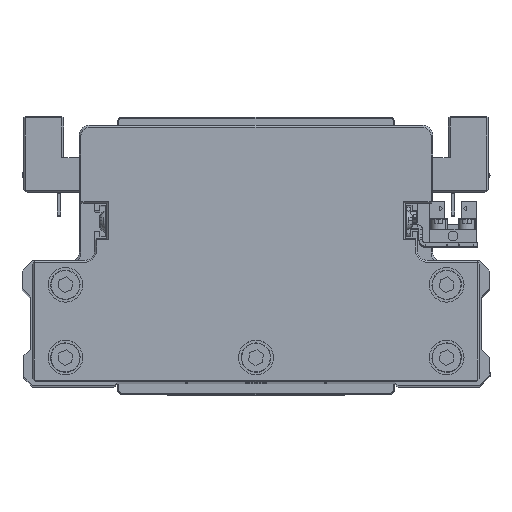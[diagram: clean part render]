
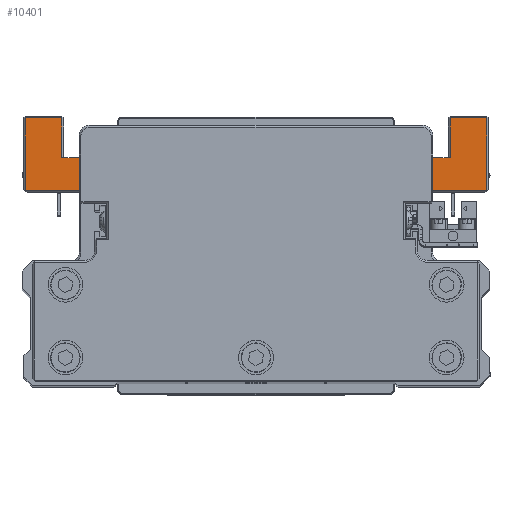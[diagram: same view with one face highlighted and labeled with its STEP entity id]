
A CAD part, top view. The second image highlights one B-rep face of the part: STEP entity #10401.
In plain terms, the highlighted planar face has unit normal (0, 0, 1) as drawn and (0, -1, 0) by its records, which use the part's own axes.
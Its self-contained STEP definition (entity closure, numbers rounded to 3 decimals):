
#39 = CARTESIAN_POINT ( 'NONE',  ( 56., -45., -64. ) ) ;
#177 = CARTESIAN_POINT ( 'NONE',  ( 66.5, -45., -43.5 ) ) ;
#202 = CARTESIAN_POINT ( 'NONE',  ( -40.066, -45., -41.5 ) ) ;
#226 = CARTESIAN_POINT ( 'NONE',  ( 40.066, -45., -43. ) ) ;
#677 = DIRECTION ( 'NONE',  ( 0., 0., -1. ) ) ;
#908 = CARTESIAN_POINT ( 'NONE',  ( 25.802, -45., -41.111 ) ) ;
#1013 = EDGE_CURVE ( 'NONE', #15047, #36386, #16642, .T. ) ;
#1159 = ORIENTED_EDGE ( 'NONE', *, *, #14329, .F. ) ;
#1524 = DIRECTION ( 'NONE',  ( 0., 0., 1. ) ) ;
#1626 = CARTESIAN_POINT ( 'NONE',  ( 0., -45., 0. ) ) ;
#1845 = CARTESIAN_POINT ( 'NONE',  ( -77.786, -45., -42.5 ) ) ;
#2041 = VECTOR ( 'NONE', #15292, 1000. ) ;
#2042 = ORIENTED_EDGE ( 'NONE', *, *, #13509, .T. ) ;
#2109 = CARTESIAN_POINT ( 'NONE',  ( -46., -45., -54. ) ) ;
#2216 = CARTESIAN_POINT ( 'NONE',  ( -36.217, -45., -42.5 ) ) ;
#2457 = VERTEX_POINT ( 'NONE', #20424 ) ;
#2799 = EDGE_CURVE ( 'NONE', #34958, #5583, #16710, .T. ) ;
#2863 = ORIENTED_EDGE ( 'NONE', *, *, #26743, .T. ) ;
#3143 = CARTESIAN_POINT ( 'NONE',  ( -46., -45., -52.5 ) ) ;
#3965 = DIRECTION ( 'NONE',  ( -0.991, 0., -0.132 ) ) ;
#4578 = VERTEX_POINT ( 'NONE', #17146 ) ;
#4615 = DIRECTION ( 'NONE',  ( -1., 0., 0. ) ) ;
#5162 = LINE ( 'NONE', #17308, #12828 ) ;
#5583 = VERTEX_POINT ( 'NONE', #33480 ) ;
#6014 = ORIENTED_EDGE ( 'NONE', *, *, #13732, .T. ) ;
#6238 = VECTOR ( 'NONE', #677, 1000. ) ;
#6447 = CIRCLE ( 'NONE', #28697, 1.5 ) ;
#6507 = VECTOR ( 'NONE', #11816, 1000. ) ;
#6611 = CARTESIAN_POINT ( 'NONE',  ( -40.066, -45., -43. ) ) ;
#6737 = DIRECTION ( 'NONE',  ( 0., 0., -1. ) ) ;
#7732 = CARTESIAN_POINT ( 'NONE',  ( -55.5, -45., -64. ) ) ;
#7935 = CARTESIAN_POINT ( 'NONE',  ( -46., -45., -52.5 ) ) ;
#8308 = VECTOR ( 'NONE', #4615, 1000. ) ;
#8925 = EDGE_CURVE ( 'NONE', #2457, #34137, #21883, .T. ) ;
#9001 = VECTOR ( 'NONE', #19871, 1000. ) ;
#9259 = CARTESIAN_POINT ( 'NONE',  ( 67., -45., -64. ) ) ;
#9535 = CARTESIAN_POINT ( 'NONE',  ( 56., -45., -64.5 ) ) ;
#9732 = ORIENTED_EDGE ( 'NONE', *, *, #18114, .T. ) ;
#9824 = CARTESIAN_POINT ( 'NONE',  ( -66.5, -45., -64. ) ) ;
#9933 = CARTESIAN_POINT ( 'NONE',  ( -56., -45., -52.5 ) ) ;
#10178 = ORIENTED_EDGE ( 'NONE', *, *, #2799, .T. ) ;
#10398 = EDGE_CURVE ( 'NONE', #21854, #34958, #19738, .T. ) ;
#10401 = ADVANCED_FACE ( 'NONE', ( #16754 ), #28870, .T. ) ;
#10611 = DIRECTION ( 'NONE',  ( 0., 0., -1. ) ) ;
#10645 = VECTOR ( 'NONE', #3965, 1000. ) ;
#10723 = DIRECTION ( 'NONE',  ( -1., 0., 0. ) ) ;
#10836 = ORIENTED_EDGE ( 'NONE', *, *, #37379, .T. ) ;
#11625 = ORIENTED_EDGE ( 'NONE', *, *, #13972, .T. ) ;
#11816 = DIRECTION ( 'NONE',  ( -1., 0., 0. ) ) ;
#12143 = EDGE_CURVE ( 'NONE', #16899, #36386, #5162, .T. ) ;
#12295 = DIRECTION ( 'NONE',  ( 0., 0., 1. ) ) ;
#12318 = DIRECTION ( 'NONE',  ( 0., 1., 0. ) ) ;
#12321 = EDGE_CURVE ( 'NONE', #12941, #16899, #30392, .T. ) ;
#12345 = ORIENTED_EDGE ( 'NONE', *, *, #1013, .T. ) ;
#12828 = VECTOR ( 'NONE', #29433, 1000. ) ;
#12941 = VERTEX_POINT ( 'NONE', #2109 ) ;
#13035 = DIRECTION ( 'NONE',  ( -0.991, 0., 0.132 ) ) ;
#13164 = CARTESIAN_POINT ( 'NONE',  ( 66.5, -45., -43. ) ) ;
#13509 = EDGE_CURVE ( 'NONE', #36671, #35873, #6447, .T. ) ;
#13562 = CARTESIAN_POINT ( 'NONE',  ( -56., -45., -64. ) ) ;
#13732 = EDGE_CURVE ( 'NONE', #34137, #15047, #34984, .T. ) ;
#13755 = DIRECTION ( 'NONE',  ( 0., -1., 0. ) ) ;
#13911 = VECTOR ( 'NONE', #12295, 1000. ) ;
#13972 = EDGE_CURVE ( 'NONE', #37595, #29409, #36514, .T. ) ;
#13979 = DIRECTION ( 'NONE',  ( -1., 0., 0. ) ) ;
#14162 = LINE ( 'NONE', #26281, #21626 ) ;
#14329 = EDGE_CURVE ( 'NONE', #25753, #4578, #26938, .T. ) ;
#15047 = VERTEX_POINT ( 'NONE', #13562 ) ;
#15292 = DIRECTION ( 'NONE',  ( 0., 0., 1. ) ) ;
#15460 = ORIENTED_EDGE ( 'NONE', *, *, #12321, .F. ) ;
#15561 = ORIENTED_EDGE ( 'NONE', *, *, #22440, .T. ) ;
#15693 = VECTOR ( 'NONE', #21694, 1000. ) ;
#15786 = LINE ( 'NONE', #27912, #6238 ) ;
#16642 = LINE ( 'NONE', #28768, #34363 ) ;
#16710 = CIRCLE ( 'NONE', #38932, 1.5 ) ;
#16754 = FACE_OUTER_BOUND ( 'NONE', #17398, .T. ) ;
#16899 = VERTEX_POINT ( 'NONE', #7935 ) ;
#17146 = CARTESIAN_POINT ( 'NONE',  ( 46., -45., -52.5 ) ) ;
#17308 = CARTESIAN_POINT ( 'NONE',  ( -55.5, -45., -52.5 ) ) ;
#17398 = EDGE_LOOP ( 'NONE', ( #10836, #9732, #2042, #15561, #35501, #6014, #12345, #33329, #15460, #28098, #25525, #1159, #25532, #11625, #19467, #33052, #10178, #2863 ) ) ;
#18114 = EDGE_CURVE ( 'NONE', #31403, #36671, #19077, .T. ) ;
#19077 = LINE ( 'NONE', #31216, #10645 ) ;
#19467 = ORIENTED_EDGE ( 'NONE', *, *, #32049, .T. ) ;
#19738 = LINE ( 'NONE', #31873, #8308 ) ;
#19871 = DIRECTION ( 'NONE',  ( 1., 0., 0. ) ) ;
#20424 = CARTESIAN_POINT ( 'NONE',  ( -66.5, -45., -43. ) ) ;
#20876 = VERTEX_POINT ( 'NONE', #30003 ) ;
#21081 = CARTESIAN_POINT ( 'NONE',  ( -39.868, -45., -42.987 ) ) ;
#21422 = DIRECTION ( 'NONE',  ( 1., 0., 0. ) ) ;
#21626 = VECTOR ( 'NONE', #38411, 1000. ) ;
#21694 = DIRECTION ( 'NONE',  ( 0., 0., -1. ) ) ;
#21744 = VECTOR ( 'NONE', #21422, 1000. ) ;
#21854 = VERTEX_POINT ( 'NONE', #13164 ) ;
#21883 = LINE ( 'NONE', #34001, #27883 ) ;
#22016 = EDGE_CURVE ( 'NONE', #12941, #20876, #14162, .T. ) ;
#22089 = CARTESIAN_POINT ( 'NONE',  ( 56., -45., -52.5 ) ) ;
#22413 = CARTESIAN_POINT ( 'NONE',  ( 66.5, -45., -64. ) ) ;
#22440 = EDGE_CURVE ( 'NONE', #35873, #2457, #25830, .T. ) ;
#24442 = DIRECTION ( 'NONE',  ( 0., 0., -1. ) ) ;
#24890 = VECTOR ( 'NONE', #13035, 1000. ) ;
#25525 = ORIENTED_EDGE ( 'NONE', *, *, #37181, .F. ) ;
#25532 = ORIENTED_EDGE ( 'NONE', *, *, #30301, .T. ) ;
#25737 = CARTESIAN_POINT ( 'NONE',  ( 40.066, -45., -41.5 ) ) ;
#25753 = VERTEX_POINT ( 'NONE', #22089 ) ;
#25830 = LINE ( 'NONE', #37968, #38785 ) ;
#25885 = DIRECTION ( 'NONE',  ( 0., 0., -1. ) ) ;
#26281 = CARTESIAN_POINT ( 'NONE',  ( 46., -45., -54. ) ) ;
#26743 = EDGE_CURVE ( 'NONE', #5583, #28994, #28163, .T. ) ;
#26938 = LINE ( 'NONE', #39067, #6507 ) ;
#27403 = LINE ( 'NONE', #177, #13911 ) ;
#27857 = VECTOR ( 'NONE', #13979, 1000. ) ;
#27883 = VECTOR ( 'NONE', #6737, 1000. ) ;
#27912 = CARTESIAN_POINT ( 'NONE',  ( 46., -45., -52.5 ) ) ;
#28098 = ORIENTED_EDGE ( 'NONE', *, *, #22016, .T. ) ;
#28163 = LINE ( 'NONE', #908, #24890 ) ;
#28613 = CARTESIAN_POINT ( 'NONE',  ( 36.217, -45., -42.5 ) ) ;
#28697 = AXIS2_PLACEMENT_3D ( 'NONE', #202, #12318, #24442 ) ;
#28768 = CARTESIAN_POINT ( 'NONE',  ( -56., -45., -52.5 ) ) ;
#28870 = PLANE ( 'NONE',  #30526 ) ;
#28994 = VERTEX_POINT ( 'NONE', #28613 ) ;
#29083 = LINE ( 'NONE', #1845, #27857 ) ;
#29409 = VERTEX_POINT ( 'NONE', #22413 ) ;
#29433 = DIRECTION ( 'NONE',  ( -1., 0., 0. ) ) ;
#30003 = CARTESIAN_POINT ( 'NONE',  ( 46., -45., -54. ) ) ;
#30301 = EDGE_CURVE ( 'NONE', #25753, #37595, #36780, .T. ) ;
#30392 = LINE ( 'NONE', #3143, #2041 ) ;
#30526 = AXIS2_PLACEMENT_3D ( 'NONE', #1626, #13755, #25885 ) ;
#31216 = CARTESIAN_POINT ( 'NONE',  ( -39.868, -45., -42.987 ) ) ;
#31403 = VERTEX_POINT ( 'NONE', #2216 ) ;
#31873 = CARTESIAN_POINT ( 'NONE',  ( 40.066, -45., -43. ) ) ;
#32049 = EDGE_CURVE ( 'NONE', #29409, #21854, #27403, .T. ) ;
#33052 = ORIENTED_EDGE ( 'NONE', *, *, #10398, .T. ) ;
#33329 = ORIENTED_EDGE ( 'NONE', *, *, #12143, .F. ) ;
#33480 = CARTESIAN_POINT ( 'NONE',  ( 39.868, -45., -42.987 ) ) ;
#34001 = CARTESIAN_POINT ( 'NONE',  ( -66.5, -45., -64.5 ) ) ;
#34137 = VERTEX_POINT ( 'NONE', #9824 ) ;
#34363 = VECTOR ( 'NONE', #1524, 1000. ) ;
#34958 = VERTEX_POINT ( 'NONE', #226 ) ;
#34984 = LINE ( 'NONE', #7732, #9001 ) ;
#35501 = ORIENTED_EDGE ( 'NONE', *, *, #8925, .T. ) ;
#35873 = VERTEX_POINT ( 'NONE', #6611 ) ;
#36386 = VERTEX_POINT ( 'NONE', #9933 ) ;
#36514 = LINE ( 'NONE', #9259, #21744 ) ;
#36671 = VERTEX_POINT ( 'NONE', #21081 ) ;
#36780 = LINE ( 'NONE', #9535, #15693 ) ;
#37181 = EDGE_CURVE ( 'NONE', #4578, #20876, #15786, .T. ) ;
#37379 = EDGE_CURVE ( 'NONE', #28994, #31403, #29083, .T. ) ;
#37595 = VERTEX_POINT ( 'NONE', #39 ) ;
#37866 = DIRECTION ( 'NONE',  ( 0., 1., 0. ) ) ;
#37968 = CARTESIAN_POINT ( 'NONE',  ( -66., -45., -43. ) ) ;
#38411 = DIRECTION ( 'NONE',  ( 1., 0., 0. ) ) ;
#38785 = VECTOR ( 'NONE', #10723, 1000. ) ;
#38932 = AXIS2_PLACEMENT_3D ( 'NONE', #25737, #37866, #10611 ) ;
#39067 = CARTESIAN_POINT ( 'NONE',  ( 55.5, -45., -52.5 ) ) ;
